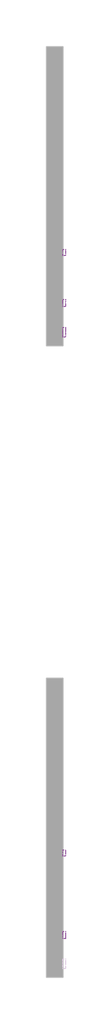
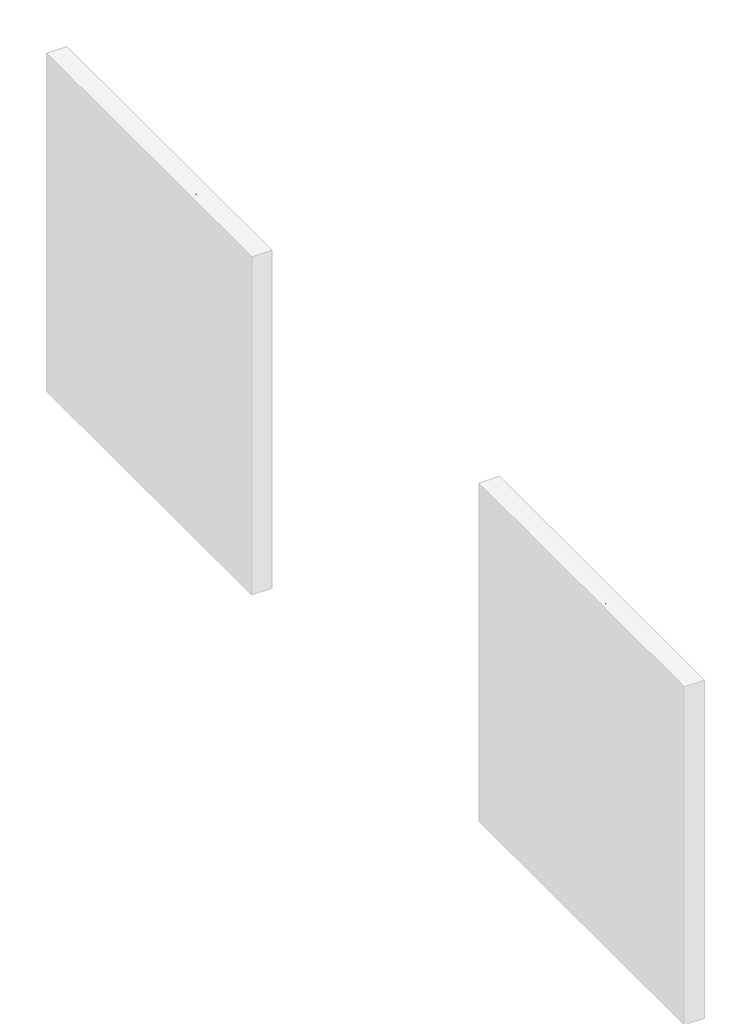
# One storey, part 3 of 21: 5 proxies.
"""IFC4 building model written with IfcOpenShell, lengths in millimetres."""

import ifcopenshell
import ifcopenshell.guid

model = None  # the IFC model being written
_history = None  # IfcOwnerHistory: only IFC2X3 demands one
_inside = {}  # id of a spatial element -> (the spatial element, [elements in it])
_under = {}  # id of a project, library or spatial element -> (it, [spatial elements below it])
_declared = {}  # id of a project -> (the project, [libraries it declares])
_typed = {}  # id of a type object -> (the type object, [elements of that type])
_made_of = {}  # id of a material, layer set ... -> (it, [elements and type objects made of it])


def new_model(schema):
    """Start an empty IFC model of exactly this schema.

    Asked for "IFC4X3", IfcOpenShell would pick the latest addendum, in which some entities
    have other attributes; the version numbers below select the first issue.
    IFC2X3 requires an IfcOwnerHistory on every rooted entity: one is made here for all.
    """
    global model, _history
    if schema == "IFC4X3":
        model = ifcopenshell.file(schema_version=(4, 3, 0, 0))
    else:
        model = ifcopenshell.file(schema=schema)
    _inside.clear()
    _under.clear()
    _declared.clear()
    _typed.clear()
    _made_of.clear()
    _history = None
    if model.schema == "IFC2X3":
        org = make("IfcOrganization", Name="unknown")
        user = make(
            "IfcPersonAndOrganization",
            ThePerson=make("IfcPerson", FamilyName="unknown"),
            TheOrganization=org,
        )
        app = make(
            "IfcApplication",
            ApplicationDeveloper=org,
            Version="unknown",
            ApplicationFullName="unknown",
            ApplicationIdentifier="unknown",
        )
        _history = make(
            "IfcOwnerHistory",
            OwningUser=user,
            OwningApplication=app,
            ChangeAction="ADDED",
            CreationDate=0,
        )
    return model


def make(cls, **values):
    """One entity of the class cls with the attributes given. An attribute that is None is left unset."""
    return model.create_entity(
        cls, **{name: value for name, value in values.items() if value is not None}
    )


def rooted(cls, **values):
    """An entity with a GlobalId (a new one), such as an element, a storey or a relation."""
    return make(cls, GlobalId=ifcopenshell.guid.new(), OwnerHistory=_history, **values)


def si_unit(unit_type, name, prefix=None):
    """IfcSIUnit, for example si_unit("LENGTHUNIT", "METRE", prefix="MILLI")."""
    return make("IfcSIUnit", UnitType=unit_type, Prefix=prefix, Name=name)


def assignment(units):
    """IfcUnitAssignment: the units of a project."""
    return None if units is None else make("IfcUnitAssignment", Units=units)


def point(xyz):
    """IfcCartesianPoint."""
    return None if xyz is None else make("IfcCartesianPoint", Coordinates=xyz)


def direction(xyz):
    """IfcDirection."""
    return None if xyz is None else make("IfcDirection", DirectionRatios=xyz)


def frame(location, z_axis=None, x_axis=None):
    """IfcAxis2Placement3D, a coordinate frame: its origin and axes. An axis left out is left unset."""
    return make(
        "IfcAxis2Placement3D",
        Location=point(location),
        Axis=direction(z_axis),
        RefDirection=direction(x_axis),
    )


def origin():
    """The frame at (0, 0, 0) with its axes left unset."""
    return frame((0.0, 0.0, 0.0))


def place(relative_to, where):
    """IfcLocalPlacement: puts the frame where relative to a parent placement (None: the world)."""
    return make(
        "IfcLocalPlacement", PlacementRelTo=relative_to, RelativePlacement=where
    )


def context(
    kind, dimensions, precision=None, world=None, true_north=None, identifier=None
):
    """IfcGeometricRepresentationContext, for example the 3D "Model" context."""
    return make(
        "IfcGeometricRepresentationContext",
        ContextIdentifier=identifier,
        ContextType=kind,
        CoordinateSpaceDimension=dimensions,
        Precision=precision,
        WorldCoordinateSystem=world,
        TrueNorth=true_north,
    )


def project(units=None, contexts=None):
    """IfcProject with its units and contexts."""
    return rooted(
        "IfcProject",
        Name="project",
        RepresentationContexts=contexts,
        UnitsInContext=assignment(units),
    )


def spatial(cls, under=None, at=None, **own):
    """A site, building, storey or space (cls), placed at a placement, below another one or the project."""
    s = rooted(cls, ObjectPlacement=at, **own)
    if under is not None:
        _under.setdefault(under.id(), (under, []))[1].append(s)
    return s


def polyline(points):
    """IfcPolyline through the points."""
    return make("IfcPolyline", Points=[point(p) for p in points])


def outline(outer, holes=None, kind="AREA"):
    """IfcArbitraryClosedProfileDef: a profile drawn as a closed curve; with holes, ...WithVoids."""
    if holes is None:
        return make("IfcArbitraryClosedProfileDef", ProfileType=kind, OuterCurve=outer)
    return make(
        "IfcArbitraryProfileDefWithVoids",
        ProfileType=kind,
        OuterCurve=outer,
        InnerCurves=holes,
    )


def extrude(swept, where, along, depth):
    """IfcExtrudedAreaSolid: the profile swept, set in the frame where, extruded along a direction by depth."""
    return make(
        "IfcExtrudedAreaSolid",
        SweptArea=swept,
        Position=where,
        ExtrudedDirection=direction(along),
        Depth=depth,
    )


def shape(context_of_items, identifier, shape_type, items):
    """IfcShapeRepresentation: the items that make up one representation, for example the "Body"."""
    return make(
        "IfcShapeRepresentation",
        ContextOfItems=context_of_items,
        RepresentationIdentifier=identifier,
        RepresentationType=shape_type,
        Items=items,
    )


def made_of(thing, what):
    """Note that an element or type object is made of a material, layer set ...; save() writes the relation."""
    if what is not None:
        _made_of.setdefault(what.id(), (what, []))[1].append(thing)
    return thing


def element(
    cls,
    number,
    at=None,
    inside=None,
    cuts=None,
    type_object=None,
    material=None,
    context=None,
    identifier="Body",
    shape_type=None,
    held_by="IfcProductDefinitionShape",
    body=None,
    shapes=None,
    **own,
):
    """One element of the class cls, such as IfcWall. Its Tag is "e" and its number.

    at: its placement. inside: the storey or other place that contains it. cuts: it is an
    opening in that element (IfcRelVoidsElement). A single representation is given by context,
    identifier, shape_type and body (its items); several are given by shapes. held_by: the class
    of the entity that holds the representations. save() writes the other relations.
    """
    e = rooted(cls, Tag="e%d" % number, ObjectPlacement=at, **own)
    if body is not None:
        shapes = [shape(context, identifier, shape_type, body)]
    if shapes is not None:
        e.Representation = make(held_by, Representations=shapes)
    if inside is not None:
        _inside.setdefault(inside.id(), (inside, []))[1].append(e)
    if cuts is not None:
        rooted(
            "IfcRelVoidsElement", RelatingBuildingElement=cuts, RelatedOpeningElement=e
        )
    if type_object is not None:
        _typed.setdefault(type_object.id(), (type_object, []))[1].append(e)
    return made_of(e, material)


def aggregate(whole, parts):
    """IfcRelAggregates: a whole, such as a stair, and the parts it consists of."""
    return rooted("IfcRelAggregates", RelatingObject=whole, RelatedObjects=parts)


def save(model, path):
    """Write the relations noted so far, then the file.

    IfcRelAggregates (storeys below a building ...), IfcRelContainedInSpatialStructure (elements
    in a storey), IfcRelDefinesByType, IfcRelAssociatesMaterial and IfcRelDeclares: one each for
    every whole, place, type object, material and project.
    """
    for whole, parts in _under.values():
        aggregate(whole, parts)
    for where, things in _inside.values():
        rooted(
            "IfcRelContainedInSpatialStructure",
            RelatedElements=things,
            RelatingStructure=where,
        )
    for kind, things in _typed.values():
        rooted("IfcRelDefinesByType", RelatedObjects=things, RelatingType=kind)
    for what, things in _made_of.values():
        rooted("IfcRelAssociatesMaterial", RelatedObjects=things, RelatingMaterial=what)
    for by, libraries in _declared.values():
        rooted("IfcRelDeclares", RelatingContext=by, RelatedDefinitions=libraries)
    model.write(path)


model = new_model("IFC4")

# Units and contexts
model_context = context("Model", 3, world=origin())
ifc_project = project(units=[si_unit("LENGTHUNIT", "METRE", prefix="MILLI")], contexts=[model_context])

# Site, building, storey
site = spatial("IfcSite", under=ifc_project)
building = spatial("IfcBuilding", under=site)
storey = spatial("IfcBuildingStorey", under=building, Name="PORTOBELLO - SHOWROOM", Elevation=0.0)

# Proxies
placement = place(None, origin())
element("IfcBuildingElementProxy", 1, Name="10mm Arial", ObjectType="10mm Arial", at=placement, inside=storey, context=model_context, shape_type="SweptSolid", body=[
    extrude(outline(polyline([(-7592.5977926, 2383.4745677), (-7605.1548314, 2383.4745677), (-7605.1548314, 2461.7598562), (-7617.0496826, 2453.2863076), (-7630.2689089, 2446.9464746), (-7630.2689089, 2458.8168003), (-7611.8625465, 2470.5644987), (-7600.6911965, 2483.9308778), (-7592.5977926, 2483.9308778), (-7592.5977926, 2383.4745677)])), frame((20534.9936671, 0.0, 0.0), z_axis=(1.0, 0.0, 0.0), x_axis=(0.0, 1.0, 0.0)), (0.0, 0.0, 1.0), 20.0),
    extrude(outline(polyline([(-7562.7748256, 2410.158275), (-7550.2177868, 2411.7279049), (-7543.8902165, 2398.7907214), (-7530.769092, 2394.4619766), (-7521.7682458, 2395.9672271), (-7515.0237426, 2400.4829786), (-7510.8114937, 2407.4880649), (-7509.4074108, 2416.4613199), (-7514.6681233, 2431.3728034), (-7521.2746708, 2435.4746877), (-7530.5728883, 2436.8419824), (-7541.5970854, 2434.6592159), (-7548.6481569, 2428.9938332), (-7561.2051957, 2430.563463), (-7550.2177868, 2482.361248), (-7501.5592616, 2482.361248), (-7501.5592616, 2469.8042092), (-7540.0642437, 2469.8042092), (-7545.4598463, 2442.1394832), (-7536.489657, 2447.5841367), (-7527.090272, 2449.3990212), (-7515.3548364, 2447.1488097), (-7505.6059635, 2440.3981751), (-7499.0392699, 2430.1097419), (-7496.850372, 2417.2461348), (-7498.8185407, 2404.6890961), (-7504.7230467, 2393.9469418), (-7516.0292867, 2384.9154388), (-7530.8181429, 2381.9049378), (-7543.1513868, 2383.839384), (-7552.9769018, 2389.6427224), (-7559.712208, 2398.6405029), (-7562.7748256, 2410.158275)])), frame((20534.9936671, 0.0, 0.0), z_axis=(1.0, 0.0, 0.0), x_axis=(0.0, 1.0, 0.0)), (0.0, 0.0, 1.0), 20.0),
    extrude(outline(polyline([(-7479.5844437, 2383.4745677), (-7479.5844437, 2396.0316064), (-7467.027405, 2396.0316064), (-7467.027405, 2383.4745677), (-7469.2837479, 2370.635486), (-7476.445184, 2363.0693797), (-7479.5844437, 2367.7782692), (-7474.973656, 2373.1983973), (-7473.3304498, 2383.4745677), (-7479.5844437, 2383.4745677)])), frame((20534.9936671, 0.0, 0.0), z_axis=(1.0, 0.0, 0.0), x_axis=(0.0, 1.0, 0.0)), (0.0, 0.0, 1.0), 20.0),
    extrude(outline(polyline([(-7446.622217, 2410.158275), (-7434.0651782, 2411.7279049), (-7427.7376079, 2398.7907214), (-7414.6164834, 2394.4619766), (-7405.6156372, 2395.9672271), (-7398.871134, 2400.4829786), (-7394.6588851, 2407.4880649), (-7393.2548022, 2416.4613199), (-7398.5155147, 2431.3728034), (-7405.1220622, 2435.4746877), (-7414.4202796, 2436.8419824), (-7425.4444768, 2434.6592159), (-7432.4955483, 2428.9938332), (-7445.0525871, 2430.563463), (-7434.0651782, 2482.361248), (-7385.406653, 2482.361248), (-7385.406653, 2469.8042092), (-7423.9116351, 2469.8042092), (-7429.3072377, 2442.1394832), (-7420.3370484, 2447.5841367), (-7410.9376634, 2449.3990212), (-7399.2022278, 2447.1488097), (-7389.4533549, 2440.3981751), (-7382.8866613, 2430.1097419), (-7380.6977634, 2417.2461348), (-7382.6659321, 2404.6890961), (-7388.5704381, 2393.9469418), (-7399.8766781, 2384.9154388), (-7414.6655343, 2381.9049378), (-7426.9987782, 2383.839384), (-7436.8242931, 2389.6427224), (-7443.5595993, 2398.6405029), (-7446.622217, 2410.158275)])), frame((20534.9936671, 0.0, 0.0), z_axis=(1.0, 0.0, 0.0), x_axis=(0.0, 1.0, 0.0)), (0.0, 0.0, 1.0), 20.0),
    extrude(outline(polyline([(-7374.419244, 2383.4745677), (-7347.5883839, 2420.5815982), (-7372.8496142, 2457.2471704), (-7357.7909779, 2457.2471704), (-7345.6018211, 2439.5643092), (-7339.8873874, 2431.2501761), (-7334.9332432, 2438.0682557), (-7321.0518293, 2457.2471704), (-7305.944142, 2457.2471704), (-7332.4806966, 2420.5570728), (-7306.9251607, 2383.4745677), (-7322.0083225, 2383.4745677), (-7337.4103153, 2405.792742), (-7340.2062185, 2409.8884949), (-7359.3115568, 2383.4745677), (-7374.419244, 2383.4745677)])), frame((20534.9936671, 0.0, 0.0), z_axis=(1.0, 0.0, 0.0), x_axis=(0.0, 1.0, 0.0)), (0.0, 0.0, 1.0), 20.0),
    extrude(outline(polyline([(-7251.988116, 2383.4745677), (-7264.5451548, 2383.4745677), (-7264.5451548, 2461.7598562), (-7276.440006, 2453.2863076), (-7289.6592323, 2446.9464746), (-7289.6592323, 2458.8168003), (-7271.2528699, 2470.5644987), (-7260.0815199, 2483.9308778), (-7251.988116, 2483.9308778), (-7251.988116, 2383.4745677)])), frame((20534.9936671, 0.0, 0.0), z_axis=(1.0, 0.0, 0.0), x_axis=(0.0, 1.0, 0.0)), (0.0, 0.0, 1.0), 20.0),
    extrude(outline(polyline([(-7222.165149, 2410.158275), (-7209.6081102, 2411.7279049), (-7203.2805399, 2398.7907214), (-7190.1594154, 2394.4619766), (-7181.1585692, 2395.9672271), (-7174.414066, 2400.4829786), (-7170.2018171, 2407.4880649), (-7168.7977342, 2416.4613199), (-7174.0584467, 2431.3728034), (-7180.6649942, 2435.4746877), (-7189.9632117, 2436.8419824), (-7200.9874088, 2434.6592159), (-7208.0384803, 2428.9938332), (-7220.5955191, 2430.563463), (-7209.6081102, 2482.361248), (-7160.949585, 2482.361248), (-7160.949585, 2469.8042092), (-7199.4545671, 2469.8042092), (-7204.8501697, 2442.1394832), (-7195.8799804, 2447.5841367), (-7186.4805954, 2449.3990212), (-7174.7451598, 2447.1488097), (-7164.9962869, 2440.3981751), (-7158.4295933, 2430.1097419), (-7156.2406954, 2417.2461348), (-7158.2088641, 2404.6890961), (-7164.1133701, 2393.9469418), (-7175.4196101, 2384.9154388), (-7190.2084663, 2381.9049378), (-7202.5417102, 2383.839384), (-7212.3672252, 2389.6427224), (-7219.1025314, 2398.6405029), (-7222.165149, 2410.158275)])), frame((20534.9936671, 0.0, 0.0), z_axis=(1.0, 0.0, 0.0), x_axis=(0.0, 1.0, 0.0)), (0.0, 0.0, 1.0), 20.0),
    extrude(outline(polyline([(-7138.9747671, 2383.4745677), (-7138.9747671, 2396.0316064), (-7126.4177284, 2396.0316064), (-7126.4177284, 2383.4745677), (-7128.6740713, 2370.635486), (-7135.8355074, 2363.0693797), (-7138.9747671, 2367.7782692), (-7134.3639794, 2373.1983973), (-7132.7207732, 2383.4745677), (-7138.9747671, 2383.4745677)])), frame((20534.9936671, 0.0, 0.0), z_axis=(1.0, 0.0, 0.0), x_axis=(0.0, 1.0, 0.0)), (0.0, 0.0, 1.0), 20.0),
    extrude(outline(polyline([(-7106.0125404, 2410.158275), (-7093.4555016, 2411.7279049), (-7087.1279313, 2398.7907214), (-7074.0068068, 2394.4619766), (-7065.0059606, 2395.9672271), (-7058.2614574, 2400.4829786), (-7054.0492085, 2407.4880649), (-7052.6451256, 2416.4613199), (-7057.9058381, 2431.3728034), (-7064.5123856, 2435.4746877), (-7073.810603, 2436.8419824), (-7084.8348002, 2434.6592159), (-7091.8858717, 2428.9938332), (-7104.4429105, 2430.563463), (-7093.4555016, 2482.361248), (-7044.7969764, 2482.361248), (-7044.7969764, 2469.8042092), (-7083.3019585, 2469.8042092), (-7088.6975611, 2442.1394832), (-7079.7273718, 2447.5841367), (-7070.3279868, 2449.3990212), (-7058.5925512, 2447.1488097), (-7048.8436783, 2440.3981751), (-7042.2769847, 2430.1097419), (-7040.0880868, 2417.2461348), (-7042.0562555, 2404.6890961), (-7047.9607615, 2393.9469418), (-7059.2670015, 2384.9154388), (-7074.0558577, 2381.9049378), (-7086.3891016, 2383.839384), (-7096.2146165, 2389.6427224), (-7102.9499227, 2398.6405029), (-7106.0125404, 2410.158275)])), frame((20534.9936671, 0.0, 0.0), z_axis=(1.0, 0.0, 0.0), x_axis=(0.0, 1.0, 0.0)), (0.0, 0.0, 1.0), 20.0),
])
element("IfcBuildingElementProxy", 2, Name="10mm Arial", ObjectType="10mm Arial", at=placement, inside=storey, context=model_context, shape_type="SweptSolid", body=[
    extrude(outline(polyline([(-1946.6519205, 2518.4745677), (-1906.552783, 2618.9308778), (-1895.8596797, 2618.9308778), (-1855.7850677, 2518.4745677), (-1869.0533449, 2518.4745677), (-1880.5312632, 2549.8671646), (-1921.9302504, 2549.8671646), (-1933.4081686, 2518.4745677), (-1946.6519205, 2518.4745677)]), holes=[polyline([(-1917.3194627, 2562.4242034), (-1885.1175254, 2562.4242034), (-1894.191948, 2587.121348), (-1901.2307568, 2606.373839), (-1907.4847507, 2589.279589), (-1917.3194627, 2562.4242034)])]), frame((20534.9936671, 0.0, 0.0), z_axis=(1.0, 0.0, 0.0), x_axis=(0.0, 1.0, 0.0)), (0.0, 0.0, 1.0), 20.0),
    extrude(outline(polyline([(-1843.9392674, 2518.4745677), (-1843.9392674, 2592.2471704), (-1832.9518585, 2592.2471704), (-1832.9518585, 2581.3333379), (-1825.1527602, 2591.3887791), (-1817.304611, 2593.8168003), (-1804.6985213, 2589.9417766), (-1808.892376, 2578.6845875), (-1817.7215439, 2581.2597615), (-1824.8216664, 2578.7826894), (-1829.3466149, 2571.9155588), (-1831.3822286, 2557.24933), (-1831.3822286, 2518.4745677), (-1843.9392674, 2518.4745677)])), frame((20534.9936671, 0.0, 0.0), z_axis=(1.0, 0.0, 0.0), x_axis=(0.0, 1.0, 0.0)), (0.0, 0.0, 1.0), 20.0),
    extrude(outline(polyline([(20554.9936671, -1784.2933333), (20554.9936671, -1796.850372), (20534.9936671, -1796.850372), (20534.9936671, -1784.2933333), (20554.9936671, -1784.2933333)])), frame((0.0, 0.0, 2518.4745677), z_axis=(0.0, 0.0, 1.0), x_axis=(1.0, 0.0, 0.0)), (0.0, 0.0, 1.0), 100.4563101),
    extrude(outline(polyline([(-1713.807143, 2540.4493855), (-1701.4953589, 2538.8797557), (-1705.9314026, 2529.602998), (-1713.0100653, 2522.6684224), (-1722.5719315, 2518.345809), (-1734.4575856, 2516.9049378), (-1749.1912596, 2519.391207), (-1760.5281564, 2526.8500144), (-1767.7570376, 2538.7969822), (-1770.1666646, 2554.7477324), (-1767.7325121, 2571.2349771), (-1760.4300545, 2583.5651553), (-1749.2464419, 2591.253889), (-1735.1688242, 2593.8168003), (-1721.5295992, 2591.2600204), (-1710.6310951, 2583.5896808), (-1703.4849873, 2571.2840281), (-1701.1029514, 2554.8213088), (-1701.1765278, 2551.4367944), (-1757.6096259, 2551.4367944), (-1755.4360564, 2542.0374095), (-1750.386876, 2535.1273593), (-1743.0997468, 2530.8783223), (-1734.212331, 2529.4619766), (-1721.9005469, 2532.0862015), (-1713.807143, 2540.4493855)]), holes=[polyline([(-1757.6096259, 2563.9938332), (-1713.6599902, 2563.9938332), (-1718.6877108, 2575.3736496), (-1726.0085625, 2579.7882335), (-1735.2178751, 2581.2597615), (-1750.6811816, 2576.5631347), (-1755.546421, 2571.0724959), (-1757.6096259, 2563.9938332)])]), frame((20534.9936671, 0.0, 0.0), z_axis=(1.0, 0.0, 0.0), x_axis=(0.0, 1.0, 0.0)), (0.0, 0.0, 1.0), 20.0),
    extrude(outline(polyline([(-1693.2548022, 2540.4493855), (-1680.6977634, 2542.0190154), (-1674.8852279, 2532.6993381), (-1661.5678997, 2529.4619766), (-1648.7656062, 2532.429558), (-1644.596277, 2539.3947905), (-1648.7901317, 2545.0356477), (-1661.7150525, 2548.6163658), (-1680.624187, 2554.7599951), (-1688.8770064, 2561.933694), (-1691.6851723, 2572.0627116), (-1689.4288294, 2581.419177), (-1683.2729374, 2588.5683505), (-1675.2898981, 2592.2839586), (-1664.4864302, 2593.8168003), (-1649.2070646, 2591.3519909), (-1639.49498, 2584.6810641), (-1635.1784979, 2573.4116123), (-1647.7355366, 2571.8419824), (-1652.4566889, 2578.7704267), (-1663.5054115, 2581.2597615), (-1675.52289, 2578.8807913), (-1679.1281336, 2573.3380359), (-1677.6320801, 2569.6837414), (-1672.9477161, 2566.9123637), (-1662.1319854, 2564.2390879), (-1643.7010974, 2558.3284505), (-1635.1417097, 2551.6329982), (-1632.0392382, 2540.7191656), (-1635.6812699, 2528.7016871), (-1646.1904323, 2519.9828838), (-1661.7395779, 2516.9049378), (-1674.4008499, 2518.3887285), (-1683.6408194, 2522.8401007), (-1689.8089742, 2530.2100033), (-1693.2548022, 2540.4493855)])), frame((20534.9936671, 0.0, 0.0), z_axis=(1.0, 0.0, 0.0), x_axis=(0.0, 1.0, 0.0)), (0.0, 0.0, 1.0), 20.0),
    extrude(outline(polyline([(-1577.1021936, 2518.4745677), (-1577.1021936, 2618.9308778), (-1563.662238, 2618.9308778), (-1511.17774, 2539.3457395), (-1511.17774, 2618.9308778), (-1498.6207013, 2618.9308778), (-1498.6207013, 2518.4745677), (-1512.0606568, 2518.4745677), (-1564.5451548, 2598.0842314), (-1564.5451548, 2518.4745677), (-1577.1021936, 2518.4745677)])), frame((20534.9936671, 0.0, 0.0), z_axis=(1.0, 0.0, 0.0), x_axis=(0.0, 1.0, 0.0)), (0.0, 0.0, 1.0), 20.0),
    extrude(outline(polyline([(-1431.1266179, 2527.8923467), (-1443.3035119, 2519.3820099), (-1456.7557302, 2516.9049378), (-1467.2495641, 2518.3948599), (-1474.9904144, 2522.8646261), (-1479.7636833, 2529.6520489), (-1481.354773, 2538.0949407), (-1478.9512773, 2548.0277546), (-1472.6359697, 2555.2382417), (-1463.84359, 2559.3585201), (-1452.9788084, 2561.246981), (-1431.2001943, 2565.563463), (-1431.1266179, 2568.3593662), (-1434.5847086, 2577.6299925), (-1448.4661226, 2581.2597615), (-1461.1703142, 2578.8440031), (-1467.2281043, 2570.2723526), (-1479.7851431, 2571.8419824), (-1474.3527523, 2584.1047156), (-1463.4143943, 2591.2906772), (-1446.8474418, 2593.8168003), (-1431.6293899, 2591.5849828), (-1423.033214, 2585.9809138), (-1419.1827158, 2577.4583142), (-1418.5695791, 2566.4709053), (-1418.5695791, 2550.8481832), (-1417.931917, 2529.0327809), (-1415.4303194, 2518.4745677), (-1427.9873582, 2518.4745677), (-1431.1266179, 2527.8923467)]), holes=[polyline([(-1431.1266179, 2553.0064243), (-1451.3846531, 2549.1559261), (-1462.188121, 2547.1203124), (-1467.0809516, 2543.8093744), (-1468.7977342, 2538.9778575), (-1465.0576006, 2532.1843033), (-1454.0824544, 2529.4619766), (-1441.3782628, 2532.4663462), (-1433.1867571, 2539.738147), (-1431.2001943, 2549.4502317), (-1431.1266179, 2553.0064243)])]), frame((20534.9936671, 0.0, 0.0), z_axis=(1.0, 0.0, 0.0), x_axis=(0.0, 1.0, 0.0)), (0.0, 0.0, 1.0), 20.0),
    extrude(outline(polyline([(-1383.1548057, 2518.4745677), (-1409.1518, 2592.2471704), (-1395.8835228, 2592.2471704), (-1380.1381734, 2548.0522801), (-1375.4047584, 2533.1898475), (-1370.7694452, 2547.2184142), (-1354.9505194, 2592.2471704), (-1341.6577167, 2592.2471704), (-1367.286829, 2518.4745677), (-1383.1548057, 2518.4745677)])), frame((20534.9936671, 0.0, 0.0), z_axis=(1.0, 0.0, 0.0), x_axis=(0.0, 1.0, 0.0)), (0.0, 0.0, 1.0), 20.0),
    extrude(outline(polyline([(-1330.6703077, 2490.2212304), (-1332.2399376, 2502.3122853), (-1325.8633163, 2501.2086394), (-1319.903628, 2502.5943282), (-1316.2493335, 2506.4570892), (-1312.8157682, 2515.70319), (-1311.8347496, 2518.7443478), (-1338.518457, 2592.2471704), (-1325.2992306, 2592.2471704), (-1311.1235111, 2551.2651162), (-1306.1938923, 2534.8821046), (-1301.2642736, 2549.3766553), (-1286.720672, 2592.2471704), (-1273.5995476, 2592.2471704), (-1299.2777108, 2516.7087341), (-1305.9486377, 2500.3257226), (-1313.2327012, 2491.4720292), (-1322.9938368, 2488.6516006), (-1330.6703077, 2490.2212304)])), frame((20534.9936671, 0.0, 0.0), z_axis=(1.0, 0.0, 0.0), x_axis=(0.0, 1.0, 0.0)), (0.0, 0.0, 1.0), 20.0),
])
element("IfcBuildingElementProxy", 3, Name="10mm Arial", ObjectType="10mm Arial", at=placement, inside=storey, context=model_context, shape_type="SweptSolid", body=[
    extrude(outline(polyline([(-1892.5977926, 2383.4745677), (-1905.1548314, 2383.4745677), (-1905.1548314, 2461.7598562), (-1917.0496826, 2453.2863076), (-1930.2689089, 2446.9464746), (-1930.2689089, 2458.8168003), (-1911.8625465, 2470.5644987), (-1900.6911965, 2483.9308778), (-1892.5977926, 2483.9308778), (-1892.5977926, 2383.4745677)])), frame((20534.9936671, 0.0, 0.0), z_axis=(1.0, 0.0, 0.0), x_axis=(0.0, 1.0, 0.0)), (0.0, 0.0, 1.0), 20.0),
    extrude(outline(polyline([(-1862.7748256, 2410.158275), (-1850.2177868, 2411.7279049), (-1843.8902165, 2398.7907214), (-1830.769092, 2394.4619766), (-1821.7682458, 2395.9672271), (-1815.0237426, 2400.4829786), (-1810.8114937, 2407.4880649), (-1809.4074108, 2416.4613199), (-1814.6681233, 2431.3728034), (-1821.2746708, 2435.4746877), (-1830.5728883, 2436.8419824), (-1841.5970854, 2434.6592159), (-1848.6481569, 2428.9938332), (-1861.2051957, 2430.563463), (-1850.2177868, 2482.361248), (-1801.5592616, 2482.361248), (-1801.5592616, 2469.8042092), (-1840.0642437, 2469.8042092), (-1845.4598463, 2442.1394832), (-1836.489657, 2447.5841367), (-1827.090272, 2449.3990212), (-1815.3548364, 2447.1488097), (-1805.6059635, 2440.3981751), (-1799.0392699, 2430.1097419), (-1796.850372, 2417.2461348), (-1798.8185407, 2404.6890961), (-1804.7230467, 2393.9469418), (-1816.0292867, 2384.9154388), (-1830.8181429, 2381.9049378), (-1843.1513868, 2383.839384), (-1852.9769018, 2389.6427224), (-1859.712208, 2398.6405029), (-1862.7748256, 2410.158275)])), frame((20534.9936671, 0.0, 0.0), z_axis=(1.0, 0.0, 0.0), x_axis=(0.0, 1.0, 0.0)), (0.0, 0.0, 1.0), 20.0),
    extrude(outline(polyline([(-1779.5844437, 2383.4745677), (-1779.5844437, 2396.0316064), (-1767.027405, 2396.0316064), (-1767.027405, 2383.4745677), (-1769.2837479, 2370.635486), (-1776.445184, 2363.0693797), (-1779.5844437, 2367.7782692), (-1774.973656, 2373.1983973), (-1773.3304498, 2383.4745677), (-1779.5844437, 2383.4745677)])), frame((20534.9936671, 0.0, 0.0), z_axis=(1.0, 0.0, 0.0), x_axis=(0.0, 1.0, 0.0)), (0.0, 0.0, 1.0), 20.0),
    extrude(outline(polyline([(-1746.622217, 2410.158275), (-1734.0651782, 2411.7279049), (-1727.7376079, 2398.7907214), (-1714.6164834, 2394.4619766), (-1705.6156372, 2395.9672271), (-1698.871134, 2400.4829786), (-1694.6588851, 2407.4880649), (-1693.2548022, 2416.4613199), (-1698.5155147, 2431.3728034), (-1705.1220622, 2435.4746877), (-1714.4202796, 2436.8419824), (-1725.4444768, 2434.6592159), (-1732.4955483, 2428.9938332), (-1745.0525871, 2430.563463), (-1734.0651782, 2482.361248), (-1685.406653, 2482.361248), (-1685.406653, 2469.8042092), (-1723.9116351, 2469.8042092), (-1729.3072377, 2442.1394832), (-1720.3370484, 2447.5841367), (-1710.9376634, 2449.3990212), (-1699.2022278, 2447.1488097), (-1689.4533549, 2440.3981751), (-1682.8866613, 2430.1097419), (-1680.6977634, 2417.2461348), (-1682.6659321, 2404.6890961), (-1688.5704381, 2393.9469418), (-1699.8766781, 2384.9154388), (-1714.6655343, 2381.9049378), (-1726.9987782, 2383.839384), (-1736.8242931, 2389.6427224), (-1743.5595993, 2398.6405029), (-1746.622217, 2410.158275)])), frame((20534.9936671, 0.0, 0.0), z_axis=(1.0, 0.0, 0.0), x_axis=(0.0, 1.0, 0.0)), (0.0, 0.0, 1.0), 20.0),
    extrude(outline(polyline([(-1674.419244, 2383.4745677), (-1647.5883839, 2420.5815982), (-1672.8496142, 2457.2471704), (-1657.7909779, 2457.2471704), (-1645.6018211, 2439.5643092), (-1639.8873874, 2431.2501761), (-1634.9332432, 2438.0682557), (-1621.0518293, 2457.2471704), (-1605.944142, 2457.2471704), (-1632.4806966, 2420.5570728), (-1606.9251607, 2383.4745677), (-1622.0083225, 2383.4745677), (-1637.4103153, 2405.792742), (-1640.2062185, 2409.8884949), (-1659.3115568, 2383.4745677), (-1674.419244, 2383.4745677)])), frame((20534.9936671, 0.0, 0.0), z_axis=(1.0, 0.0, 0.0), x_axis=(0.0, 1.0, 0.0)), (0.0, 0.0, 1.0), 20.0),
    extrude(outline(polyline([(-1551.988116, 2383.4745677), (-1564.5451548, 2383.4745677), (-1564.5451548, 2461.7598562), (-1576.440006, 2453.2863076), (-1589.6592323, 2446.9464746), (-1589.6592323, 2458.8168003), (-1571.2528699, 2470.5644987), (-1560.0815199, 2483.9308778), (-1551.988116, 2483.9308778), (-1551.988116, 2383.4745677)])), frame((20534.9936671, 0.0, 0.0), z_axis=(1.0, 0.0, 0.0), x_axis=(0.0, 1.0, 0.0)), (0.0, 0.0, 1.0), 20.0),
    extrude(outline(polyline([(-1522.165149, 2410.158275), (-1509.6081102, 2411.7279049), (-1503.2805399, 2398.7907214), (-1490.1594154, 2394.4619766), (-1481.1585692, 2395.9672271), (-1474.414066, 2400.4829786), (-1470.2018171, 2407.4880649), (-1468.7977342, 2416.4613199), (-1474.0584467, 2431.3728034), (-1480.6649942, 2435.4746877), (-1489.9632117, 2436.8419824), (-1500.9874088, 2434.6592159), (-1508.0384803, 2428.9938332), (-1520.5955191, 2430.563463), (-1509.6081102, 2482.361248), (-1460.949585, 2482.361248), (-1460.949585, 2469.8042092), (-1499.4545671, 2469.8042092), (-1504.8501697, 2442.1394832), (-1495.8799804, 2447.5841367), (-1486.4805954, 2449.3990212), (-1474.7451598, 2447.1488097), (-1464.9962869, 2440.3981751), (-1458.4295933, 2430.1097419), (-1456.2406954, 2417.2461348), (-1458.2088641, 2404.6890961), (-1464.1133701, 2393.9469418), (-1475.4196101, 2384.9154388), (-1490.2084663, 2381.9049378), (-1502.5417102, 2383.839384), (-1512.3672252, 2389.6427224), (-1519.1025314, 2398.6405029), (-1522.165149, 2410.158275)])), frame((20534.9936671, 0.0, 0.0), z_axis=(1.0, 0.0, 0.0), x_axis=(0.0, 1.0, 0.0)), (0.0, 0.0, 1.0), 20.0),
    extrude(outline(polyline([(-1438.9747671, 2383.4745677), (-1438.9747671, 2396.0316064), (-1426.4177284, 2396.0316064), (-1426.4177284, 2383.4745677), (-1428.6740713, 2370.635486), (-1435.8355074, 2363.0693797), (-1438.9747671, 2367.7782692), (-1434.3639794, 2373.1983973), (-1432.7207732, 2383.4745677), (-1438.9747671, 2383.4745677)])), frame((20534.9936671, 0.0, 0.0), z_axis=(1.0, 0.0, 0.0), x_axis=(0.0, 1.0, 0.0)), (0.0, 0.0, 1.0), 20.0),
    extrude(outline(polyline([(-1406.0125404, 2410.158275), (-1393.4555016, 2411.7279049), (-1387.1279313, 2398.7907214), (-1374.0068068, 2394.4619766), (-1365.0059606, 2395.9672271), (-1358.2614574, 2400.4829786), (-1354.0492085, 2407.4880649), (-1352.6451256, 2416.4613199), (-1357.9058381, 2431.3728034), (-1364.5123856, 2435.4746877), (-1373.810603, 2436.8419824), (-1384.8348002, 2434.6592159), (-1391.8858717, 2428.9938332), (-1404.4429105, 2430.563463), (-1393.4555016, 2482.361248), (-1344.7969764, 2482.361248), (-1344.7969764, 2469.8042092), (-1383.3019585, 2469.8042092), (-1388.6975611, 2442.1394832), (-1379.7273718, 2447.5841367), (-1370.3279868, 2449.3990212), (-1358.5925512, 2447.1488097), (-1348.8436783, 2440.3981751), (-1342.2769847, 2430.1097419), (-1340.0880868, 2417.2461348), (-1342.0562555, 2404.6890961), (-1347.9607615, 2393.9469418), (-1359.2670015, 2384.9154388), (-1374.0558577, 2381.9049378), (-1386.3891016, 2383.839384), (-1396.2146165, 2389.6427224), (-1402.9499227, 2398.6405029), (-1406.0125404, 2410.158275)])), frame((20534.9936671, 0.0, 0.0), z_axis=(1.0, 0.0, 0.0), x_axis=(0.0, 1.0, 0.0)), (0.0, 0.0, 1.0), 20.0),
])
element("IfcBuildingElementProxy", 4, Name="10mm Arial Narrow", ObjectType="10mm Arial Narrow", at=placement, inside=storey, context=model_context, shape_type="SweptSolid", body=[
    extrude(outline(polyline([(-6633.0722036, 2518.4745677), (-6633.0722036, 2615.7916181), (-6602.8323036, 2615.7916181), (-6587.0869542, 2613.9767336), (-6576.0014434, 2604.8164719), (-6571.8566396, 2588.3721467), (-6573.5826193, 2576.7041561), (-6578.7605584, 2567.402873), (-6588.1752718, 2561.314426), (-6602.6115744, 2559.2849437), (-6623.6544246, 2559.2849437), (-6623.6544246, 2518.4745677), (-6633.0722036, 2518.4745677)]), holes=[polyline([(-6623.6544246, 2570.2723526), (-6601.4588775, 2570.2723526), (-6586.130461, 2574.6501483), (-6581.2744187, 2587.857112), (-6583.6656517, 2597.6795612), (-6589.441399, 2603.2836303), (-6601.6796067, 2604.8042092), (-6623.6544246, 2604.8042092), (-6623.6544246, 2570.2723526)])]), frame((20534.9936671, 0.0, 0.0), z_axis=(1.0, 0.0, 0.0), x_axis=(0.0, 1.0, 0.0)), (0.0, 0.0, 1.0), 20.0),
    extrude(outline(polyline([(-6564.0084904, 2553.7912392), (-6562.1200295, 2569.8216971), (-6556.4546468, 2581.3701261), (-6547.895259, 2588.350687), (-6537.324783, 2590.6775406), (-6526.8769344, 2588.350687), (-6518.2930211, 2581.3701261), (-6512.554062, 2570.0056381), (-6510.6410756, 2554.5270032), (-6512.5203395, 2537.9447223), (-6518.1581311, 2526.2123523), (-6526.7083218, 2519.2317914), (-6537.324783, 2516.9049378), (-6547.8186169, 2519.2379228), (-6556.3933331, 2526.2368778), (-6562.1047011, 2537.7914381), (-6564.0084904, 2553.7912392)]), holes=[polyline([(-6554.5907113, 2553.8157647), (-6553.3307155, 2541.6879216), (-6549.550728, 2533.1162711), (-6543.906805, 2528.0211054), (-6537.0550029, 2526.3227169), (-6530.5618857, 2528.0364339), (-6525.0620498, 2533.1775847), (-6521.3096535, 2541.7645636), (-6520.0588547, 2553.8157647), (-6521.3188505, 2565.9068196), (-6525.098838, 2574.4662073), (-6530.742761, 2579.561373), (-6537.5945631, 2581.2597615), (-6544.1336656, 2579.5521759), (-6549.6243044, 2574.4294191), (-6553.3491096, 2565.8608343), (-6554.5907113, 2553.8157647)])]), frame((20534.9936671, 0.0, 0.0), z_axis=(1.0, 0.0, 0.0), x_axis=(0.0, 1.0, 0.0)), (0.0, 0.0, 1.0), 20.0),
    extrude(outline(polyline([(-6441.5773624, 2526.3227169), (-6440.0077326, 2516.9049378), (-6447.1201178, 2516.9049378), (-6455.1154198, 2518.9528143), (-6459.2847491, 2524.5568833), (-6460.4129206, 2538.7080774), (-6460.4129206, 2579.6901317), (-6468.2610698, 2579.6901317), (-6468.2610698, 2582.8293914), (-6469.8306996, 2578.1205018), (-6477.1392886, 2579.6901317), (-6483.0131378, 2577.4460515), (-6486.7532714, 2571.1797948), (-6488.6662578, 2556.2928368), (-6488.6662578, 2518.4745677), (-6498.0840369, 2518.4745677), (-6498.0840369, 2589.1079107), (-6488.6662578, 2589.1079107), (-6488.6662578, 2579.7391826), (-6482.6329931, 2588.5192995), (-6476.4525756, 2590.6775406), (-6468.2610698, 2589.1079107), (-6460.4129206, 2589.1079107), (-6460.4129206, 2604.8042092), (-6450.9951415, 2612.6523584), (-6450.9951415, 2589.1079107), (-6441.5773624, 2589.1079107), (-6441.5773624, 2579.6901317), (-6450.9951415, 2579.6901317), (-6450.9951415, 2536.5498364), (-6450.1612756, 2528.8243145), (-6445.6976408, 2526.3227169), (-6441.5773624, 2526.3227169)])), frame((20534.9936671, 0.0, 0.0), z_axis=(1.0, 0.0, 0.0), x_axis=(0.0, 1.0, 0.0)), (0.0, 0.0, 1.0), 20.0),
    extrude(outline(polyline([(-6435.298843, 2553.7912392), (-6433.4103821, 2569.8216971), (-6427.7449994, 2581.3701261), (-6419.1856116, 2588.350687), (-6408.6151356, 2590.6775406), (-6398.167287, 2588.350687), (-6389.5833738, 2581.3701261), (-6383.8444146, 2570.0056381), (-6381.9314283, 2554.5270032), (-6383.8106921, 2537.9447223), (-6389.4484837, 2526.2123523), (-6397.9986744, 2519.2317914), (-6408.6151356, 2516.9049378), (-6419.1089696, 2519.2379228), (-6427.6836857, 2526.2368778), (-6433.3950537, 2537.7914381), (-6435.298843, 2553.7912392)]), holes=[polyline([(-6425.8810639, 2553.8157647), (-6424.6210681, 2541.6879216), (-6420.8410806, 2533.1162711), (-6415.1971577, 2528.0211054), (-6408.3453555, 2526.3227169), (-6401.8522383, 2528.0364339), (-6396.3524025, 2533.1775847), (-6392.6000061, 2541.7645636), (-6391.3492073, 2553.8157647), (-6392.6092032, 2565.9068196), (-6396.3891907, 2574.4662073), (-6402.0331136, 2579.561373), (-6408.8849158, 2581.2597615), (-6415.4240182, 2579.5521759), (-6420.914657, 2574.4294191), (-6424.6394622, 2565.8608343), (-6425.8810639, 2553.8157647)])]), frame((20534.9936671, 0.0, 0.0), z_axis=(1.0, 0.0, 0.0), x_axis=(0.0, 1.0, 0.0)), (0.0, 0.0, 1.0), 20.0),
    extrude(outline(polyline([(-6359.9566104, 2518.4745677), (-6369.3743895, 2518.4745677), (-6369.3743895, 2615.7916181), (-6359.9566104, 2615.7916181), (-6359.9566104, 2581.5785926), (-6352.807437, 2588.4211977), (-6343.9169554, 2590.6775406), (-6331.4702813, 2586.6185759), (-6322.5062233, 2574.3190545), (-6319.1462344, 2554.3307995), (-6321.0132355, 2538.4321659), (-6326.6142389, 2526.641548), (-6334.7045771, 2519.3390904), (-6344.0395828, 2516.9049378), (-6353.0649544, 2519.4310609), (-6359.9566104, 2526.9358536), (-6359.9566104, 2518.4745677)]), holes=[polyline([(-6359.9566104, 2554.3307995), (-6357.9455222, 2537.6657451), (-6352.255614, 2529.2289847), (-6344.0886337, 2526.3227169), (-6338.3466089, 2528.0517623), (-6333.2851658, 2533.2388984), (-6328.5640135, 2553.938392), (-6333.1134875, 2574.6501483), (-6338.181062, 2579.6073582), (-6344.2848374, 2581.2597615), (-6350.0605847, 2579.5307161), (-6355.1741445, 2574.34358), (-6359.9566104, 2554.3307995)])]), frame((20534.9936671, 0.0, 0.0), z_axis=(1.0, 0.0, 0.0), x_axis=(0.0, 1.0, 0.0)), (0.0, 0.0, 1.0), 20.0),
    extrude(outline(polyline([(-6268.9180793, 2540.4493855), (-6259.5003003, 2538.8797557), (-6268.6973501, 2522.4476932), (-6285.1784635, 2516.9049378), (-6296.3804703, 2519.2379228), (-6305.2157695, 2526.2368778), (-6310.9547287, 2537.6442853), (-6312.867715, 2553.202628), (-6310.9455316, 2569.3066623), (-6305.1789813, 2581.0758205), (-6296.4693751, 2588.2771106), (-6285.7180238, 2590.6775406), (-6275.3958681, 2588.359884), (-6266.9437793, 2581.4069143), (-6261.3059877, 2570.0638861), (-6259.4267239, 2554.5760541), (-6259.5003003, 2551.4367944), (-6303.449936, 2551.4367944), (-6297.6496632, 2532.6502872), (-6291.9199011, 2527.9046095), (-6285.0558362, 2526.3227169), (-6275.2211242, 2529.854384), (-6268.9180793, 2540.4493855)]), holes=[polyline([(-6302.8122738, 2560.8545735), (-6268.9180793, 2560.8545735), (-6273.0383577, 2574.6378856), (-6278.6669522, 2579.6042925), (-6285.6444474, 2581.2597615), (-6297.4411967, 2575.7415316), (-6302.8122738, 2560.8545735)])]), frame((20534.9936671, 0.0, 0.0), z_axis=(1.0, 0.0, 0.0), x_axis=(0.0, 1.0, 0.0)), (0.0, 0.0, 1.0), 20.0),
    extrude(outline(polyline([(20554.9936671, -6237.5254824), (20554.9936671, -6246.9432615), (20534.9936671, -6246.9432615), (20534.9936671, -6237.5254824), (20554.9936671, -6237.5254824)])), frame((0.0, 0.0, 2518.4745677), z_axis=(0.0, 0.0, 1.0), x_axis=(1.0, 0.0, 0.0)), (0.0, 0.0, 1.0), 97.3170505),
    extrude(outline(polyline([(20554.9936671, -6212.4114049), (20554.9936671, -6221.829184), (20534.9936671, -6221.829184), (20534.9936671, -6212.4114049), (20554.9936671, -6212.4114049)])), frame((0.0, 0.0, 2518.4745677), z_axis=(0.0, 0.0, 1.0), x_axis=(1.0, 0.0, 0.0)), (0.0, 0.0, 1.0), 97.3170505),
    extrude(outline(polyline([(-6201.423996, 2553.7912392), (-6199.535535, 2569.8216971), (-6193.8701523, 2581.3701261), (-6185.3107646, 2588.350687), (-6174.7402886, 2590.6775406), (-6164.2924399, 2588.350687), (-6155.7085267, 2581.3701261), (-6149.9695676, 2570.0056381), (-6148.0565812, 2554.5270032), (-6149.935845, 2537.9447223), (-6155.5736366, 2526.2123523), (-6164.1238273, 2519.2317914), (-6174.7402886, 2516.9049378), (-6185.2341225, 2519.2379228), (-6193.8088387, 2526.2368778), (-6199.5202066, 2537.7914381), (-6201.423996, 2553.7912392)]), holes=[polyline([(-6192.0062169, 2553.8157647), (-6190.746221, 2541.6879216), (-6186.9662335, 2533.1162711), (-6181.3223106, 2528.0211054), (-6174.4705084, 2526.3227169), (-6167.9773912, 2528.0364339), (-6162.4775554, 2533.1775847), (-6158.725159, 2541.7645636), (-6157.4743603, 2553.8157647), (-6158.7343561, 2565.9068196), (-6162.5143436, 2574.4662073), (-6168.1582665, 2579.561373), (-6175.0100687, 2581.2597615), (-6181.5491712, 2579.5521759), (-6187.0398099, 2574.4294191), (-6190.7646151, 2565.8608343), (-6192.0062169, 2553.8157647)])]), frame((20534.9936671, 0.0, 0.0), z_axis=(1.0, 0.0, 0.0), x_axis=(0.0, 1.0, 0.0)), (0.0, 0.0, 1.0), 20.0),
])
element("IfcBuildingElementProxy", 5, Name="10mm Arial Narrow", ObjectType="10mm Arial Narrow", at=placement, inside=storey, context=model_context, shape_type="SweptSolid", body=[
    extrude(outline(polyline([(-1213.0722036, 2518.4745677), (-1213.0722036, 2615.7916181), (-1182.8323036, 2615.7916181), (-1167.0869542, 2613.9767336), (-1156.0014434, 2604.8164719), (-1151.8566396, 2588.3721467), (-1153.5826193, 2576.7041561), (-1158.7605584, 2567.402873), (-1168.1752718, 2561.314426), (-1182.6115744, 2559.2849437), (-1203.6544246, 2559.2849437), (-1203.6544246, 2518.4745677), (-1213.0722036, 2518.4745677)]), holes=[polyline([(-1203.6544246, 2570.2723526), (-1181.4588775, 2570.2723526), (-1166.130461, 2574.6501483), (-1161.2744187, 2587.857112), (-1163.6656517, 2597.6795612), (-1169.441399, 2603.2836303), (-1181.6796067, 2604.8042092), (-1203.6544246, 2604.8042092), (-1203.6544246, 2570.2723526)])]), frame((20534.9936671, 0.0, 0.0), z_axis=(1.0, 0.0, 0.0), x_axis=(0.0, 1.0, 0.0)), (0.0, 0.0, 1.0), 20.0),
    extrude(outline(polyline([(-1144.0084904, 2553.7912392), (-1142.1200295, 2569.8216971), (-1136.4546468, 2581.3701261), (-1127.895259, 2588.350687), (-1117.324783, 2590.6775406), (-1106.8769344, 2588.350687), (-1098.2930211, 2581.3701261), (-1092.554062, 2570.0056381), (-1090.6410756, 2554.5270032), (-1092.5203395, 2537.9447223), (-1098.1581311, 2526.2123523), (-1106.7083218, 2519.2317914), (-1117.324783, 2516.9049378), (-1127.8186169, 2519.2379228), (-1136.3933331, 2526.2368778), (-1142.1047011, 2537.7914381), (-1144.0084904, 2553.7912392)]), holes=[polyline([(-1134.5907113, 2553.8157647), (-1133.3307155, 2541.6879216), (-1129.550728, 2533.1162711), (-1123.906805, 2528.0211054), (-1117.0550029, 2526.3227169), (-1110.5618857, 2528.0364339), (-1105.0620498, 2533.1775847), (-1101.3096535, 2541.7645636), (-1100.0588547, 2553.8157647), (-1101.3188505, 2565.9068196), (-1105.098838, 2574.4662073), (-1110.742761, 2579.561373), (-1117.5945631, 2581.2597615), (-1124.1336656, 2579.5521759), (-1129.6243044, 2574.4294191), (-1133.3491096, 2565.8608343), (-1134.5907113, 2553.8157647)])]), frame((20534.9936671, 0.0, 0.0), z_axis=(1.0, 0.0, 0.0), x_axis=(0.0, 1.0, 0.0)), (0.0, 0.0, 1.0), 20.0),
    extrude(outline(polyline([(-1021.5773624, 2526.3227169), (-1020.0077326, 2516.9049378), (-1027.1201178, 2516.9049378), (-1035.1154198, 2518.9528143), (-1039.2847491, 2524.5568833), (-1040.4129206, 2538.7080774), (-1040.4129206, 2579.6901317), (-1048.2610698, 2579.6901317), (-1048.2610698, 2582.8293914), (-1049.8306996, 2578.1205018), (-1057.1392886, 2579.6901317), (-1063.0131378, 2577.4460515), (-1066.7532714, 2571.1797948), (-1068.6662578, 2556.2928368), (-1068.6662578, 2518.4745677), (-1078.0840369, 2518.4745677), (-1078.0840369, 2589.1079107), (-1068.6662578, 2589.1079107), (-1068.6662578, 2579.7391826), (-1062.6329931, 2588.5192995), (-1056.4525756, 2590.6775406), (-1048.2610698, 2589.1079107), (-1040.4129206, 2589.1079107), (-1040.4129206, 2604.8042092), (-1030.9951415, 2612.6523584), (-1030.9951415, 2589.1079107), (-1021.5773624, 2589.1079107), (-1021.5773624, 2579.6901317), (-1030.9951415, 2579.6901317), (-1030.9951415, 2536.5498364), (-1030.1612756, 2528.8243145), (-1025.6976408, 2526.3227169), (-1021.5773624, 2526.3227169)])), frame((20534.9936671, 0.0, 0.0), z_axis=(1.0, 0.0, 0.0), x_axis=(0.0, 1.0, 0.0)), (0.0, 0.0, 1.0), 20.0),
    extrude(outline(polyline([(-1015.298843, 2553.7912392), (-1013.4103821, 2569.8216971), (-1007.7449994, 2581.3701261), (-999.1856116, 2588.350687), (-988.6151356, 2590.6775406), (-978.167287, 2588.350687), (-969.5833738, 2581.3701261), (-963.8444146, 2570.0056381), (-961.9314283, 2554.5270032), (-963.8106921, 2537.9447223), (-969.4484837, 2526.2123523), (-977.9986744, 2519.2317914), (-988.6151356, 2516.9049378), (-999.1089696, 2519.2379228), (-1007.6836857, 2526.2368778), (-1013.3950537, 2537.7914381), (-1015.298843, 2553.7912392)]), holes=[polyline([(-1005.8810639, 2553.8157647), (-1004.6210681, 2541.6879216), (-1000.8410806, 2533.1162711), (-995.1971577, 2528.0211054), (-988.3453555, 2526.3227169), (-981.8522383, 2528.0364339), (-976.3524025, 2533.1775847), (-972.6000061, 2541.7645636), (-971.3492073, 2553.8157647), (-972.6092032, 2565.9068196), (-976.3891907, 2574.4662073), (-982.0331136, 2579.561373), (-988.8849158, 2581.2597615), (-995.4240182, 2579.5521759), (-1000.914657, 2574.4294191), (-1004.6394622, 2565.8608343), (-1005.8810639, 2553.8157647)])]), frame((20534.9936671, 0.0, 0.0), z_axis=(1.0, 0.0, 0.0), x_axis=(0.0, 1.0, 0.0)), (0.0, 0.0, 1.0), 20.0),
    extrude(outline(polyline([(-939.9566104, 2518.4745677), (-949.3743895, 2518.4745677), (-949.3743895, 2615.7916181), (-939.9566104, 2615.7916181), (-939.9566104, 2581.5785926), (-932.807437, 2588.4211977), (-923.9169554, 2590.6775406), (-911.4702813, 2586.6185759), (-902.5062233, 2574.3190545), (-899.1462344, 2554.3307995), (-901.0132355, 2538.4321659), (-906.6142389, 2526.641548), (-914.7045771, 2519.3390904), (-924.0395828, 2516.9049378), (-933.0649544, 2519.4310609), (-939.9566104, 2526.9358536), (-939.9566104, 2518.4745677)]), holes=[polyline([(-939.9566104, 2554.3307995), (-937.9455222, 2537.6657451), (-932.255614, 2529.2289847), (-924.0886337, 2526.3227169), (-918.3466089, 2528.0517623), (-913.2851658, 2533.2388984), (-908.5640135, 2553.938392), (-913.1134875, 2574.6501483), (-918.181062, 2579.6073582), (-924.2848374, 2581.2597615), (-930.0605847, 2579.5307161), (-935.1741445, 2574.34358), (-939.9566104, 2554.3307995)])]), frame((20534.9936671, 0.0, 0.0), z_axis=(1.0, 0.0, 0.0), x_axis=(0.0, 1.0, 0.0)), (0.0, 0.0, 1.0), 20.0),
    extrude(outline(polyline([(-848.9180793, 2540.4493855), (-839.5003003, 2538.8797557), (-848.6973501, 2522.4476932), (-865.1784635, 2516.9049378), (-876.3804703, 2519.2379228), (-885.2157695, 2526.2368778), (-890.9547287, 2537.6442853), (-892.867715, 2553.202628), (-890.9455316, 2569.3066623), (-885.1789813, 2581.0758205), (-876.4693751, 2588.2771106), (-865.7180238, 2590.6775406), (-855.3958681, 2588.359884), (-846.9437793, 2581.4069143), (-841.3059877, 2570.0638861), (-839.4267239, 2554.5760541), (-839.5003003, 2551.4367944), (-883.449936, 2551.4367944), (-877.6496632, 2532.6502872), (-871.9199011, 2527.9046095), (-865.0558362, 2526.3227169), (-855.2211242, 2529.854384), (-848.9180793, 2540.4493855)]), holes=[polyline([(-882.8122738, 2560.8545735), (-848.9180793, 2560.8545735), (-853.0383577, 2574.6378856), (-858.6669522, 2579.6042925), (-865.6444474, 2581.2597615), (-877.4411967, 2575.7415316), (-882.8122738, 2560.8545735)])]), frame((20534.9936671, 0.0, 0.0), z_axis=(1.0, 0.0, 0.0), x_axis=(0.0, 1.0, 0.0)), (0.0, 0.0, 1.0), 20.0),
    extrude(outline(polyline([(20554.9936671, -817.5254824), (20554.9936671, -826.9432615), (20534.9936671, -826.9432615), (20534.9936671, -817.5254824), (20554.9936671, -817.5254824)])), frame((0.0, 0.0, 2518.4745677), z_axis=(0.0, 0.0, 1.0), x_axis=(1.0, 0.0, 0.0)), (0.0, 0.0, 1.0), 97.3170505),
    extrude(outline(polyline([(20554.9936671, -792.4114049), (20554.9936671, -801.829184), (20534.9936671, -801.829184), (20534.9936671, -792.4114049), (20554.9936671, -792.4114049)])), frame((0.0, 0.0, 2518.4745677), z_axis=(0.0, 0.0, 1.0), x_axis=(1.0, 0.0, 0.0)), (0.0, 0.0, 1.0), 97.3170505),
    extrude(outline(polyline([(-781.423996, 2553.7912392), (-779.535535, 2569.8216971), (-773.8701523, 2581.3701261), (-765.3107646, 2588.350687), (-754.7402886, 2590.6775406), (-744.2924399, 2588.350687), (-735.7085267, 2581.3701261), (-729.9695676, 2570.0056381), (-728.0565812, 2554.5270032), (-729.935845, 2537.9447223), (-735.5736366, 2526.2123523), (-744.1238273, 2519.2317914), (-754.7402886, 2516.9049378), (-765.2341225, 2519.2379228), (-773.8088387, 2526.2368778), (-779.5202066, 2537.7914381), (-781.423996, 2553.7912392)]), holes=[polyline([(-772.0062169, 2553.8157647), (-770.746221, 2541.6879216), (-766.9662335, 2533.1162711), (-761.3223106, 2528.0211054), (-754.4705084, 2526.3227169), (-747.9773912, 2528.0364339), (-742.4775554, 2533.1775847), (-738.725159, 2541.7645636), (-737.4743603, 2553.8157647), (-738.7343561, 2565.9068196), (-742.5143436, 2574.4662073), (-748.1582665, 2579.561373), (-755.0100687, 2581.2597615), (-761.5491712, 2579.5521759), (-767.0398099, 2574.4294191), (-770.7646151, 2565.8608343), (-772.0062169, 2553.8157647)])]), frame((20534.9936671, 0.0, 0.0), z_axis=(1.0, 0.0, 0.0), x_axis=(0.0, 1.0, 0.0)), (0.0, 0.0, 1.0), 20.0),
])

save(model, "model.ifc")
